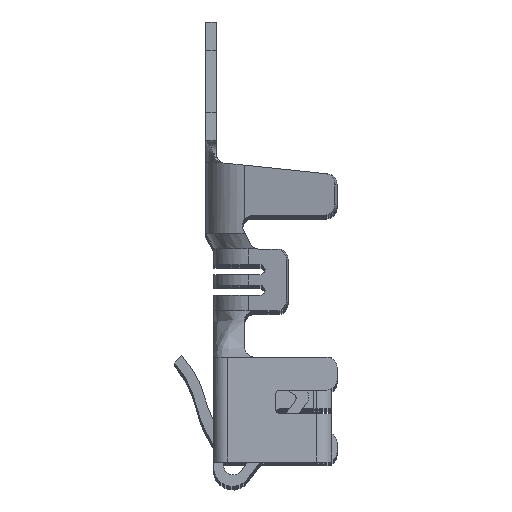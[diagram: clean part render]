
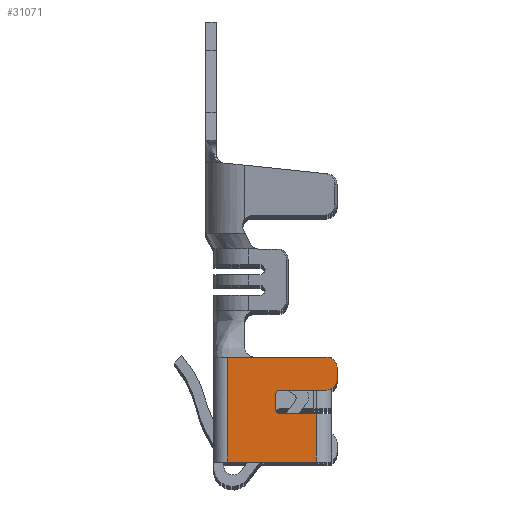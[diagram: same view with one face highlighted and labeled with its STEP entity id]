
A CAD part, top view. The second image highlights one B-rep face of the part: STEP entity #31071.
In plain terms, the highlighted planar face has unit normal (0, 0, 1).
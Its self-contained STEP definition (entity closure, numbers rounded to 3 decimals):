
#43 = DIRECTION ( 'NONE',  ( 0., 1., 0. ) ) ;
#290 = LINE ( 'NONE', #16877, #44269 ) ;
#400 = VECTOR ( 'NONE', #32678, 1000. ) ;
#432 = VECTOR ( 'NONE', #11776, 1000. ) ;
#1677 = VERTEX_POINT ( 'NONE', #6737 ) ;
#3126 = DIRECTION ( 'NONE',  ( 0., 1., 0. ) ) ;
#3804 = CARTESIAN_POINT ( 'NONE',  ( 2.823, -1.241, 0.925 ) ) ;
#3936 = PLANE ( 'NONE',  #4497 ) ;
#4470 = CARTESIAN_POINT ( 'NONE',  ( 0.898, -0.801, 0.925 ) ) ;
#4497 = AXIS2_PLACEMENT_3D ( 'NONE', #27699, #7297, #10643 ) ;
#4666 = ORIENTED_EDGE ( 'NONE', *, *, #8860, .T. ) ;
#4827 = ORIENTED_EDGE ( 'NONE', *, *, #28878, .T. ) ;
#5303 = CARTESIAN_POINT ( 'NONE',  ( 2.623, -2.841, 0.925 ) ) ;
#5426 = DIRECTION ( 'NONE',  ( 1., 0., 0. ) ) ;
#5991 = CARTESIAN_POINT ( 'NONE',  ( 1.423, -0.801, 0.925 ) ) ;
#6461 = VERTEX_POINT ( 'NONE', #13065 ) ;
#6551 = CARTESIAN_POINT ( 'NONE',  ( 0.898, -3.311, 0.925 ) ) ;
#6737 = CARTESIAN_POINT ( 'NONE',  ( 1.823, -1.801, 0.925 ) ) ;
#7297 = DIRECTION ( 'NONE',  ( 0., 0., 1. ) ) ;
#7630 = ORIENTED_EDGE ( 'NONE', *, *, #38701, .F. ) ;
#8324 = LINE ( 'NONE', #11013, #13740 ) ;
#8675 = EDGE_CURVE ( 'NONE', #22242, #13635, #43939, .T. ) ;
#8860 = EDGE_CURVE ( 'NONE', #33510, #29686, #32574, .T. ) ;
#9789 = EDGE_CURVE ( 'NONE', #32341, #26996, #37947, .T. ) ;
#10136 = DIRECTION ( 'NONE',  ( 0., 0., -1. ) ) ;
#10280 = CARTESIAN_POINT ( 'NONE',  ( 2.623, -1.901, 0.925 ) ) ;
#10643 = DIRECTION ( 'NONE',  ( 1., 0., 0. ) ) ;
#10872 = DIRECTION ( 'NONE',  ( 0., 0., -1. ) ) ;
#11013 = CARTESIAN_POINT ( 'NONE',  ( 1.823, -1.441, 0.925 ) ) ;
#11758 = CARTESIAN_POINT ( 'NONE',  ( 1.923, -1.801, 0.925 ) ) ;
#11776 = DIRECTION ( 'NONE',  ( 0., -1., 0. ) ) ;
#11817 = CARTESIAN_POINT ( 'NONE',  ( 0.898, -2.841, 0.925 ) ) ;
#11830 = VERTEX_POINT ( 'NONE', #28127 ) ;
#12495 = EDGE_CURVE ( 'NONE', #27042, #13635, #18436, .T. ) ;
#12664 = VECTOR ( 'NONE', #5426, 1000. ) ;
#13065 = CARTESIAN_POINT ( 'NONE',  ( 1.823, -1.541, 0.925 ) ) ;
#13082 = ORIENTED_EDGE ( 'NONE', *, *, #36331, .T. ) ;
#13279 = DIRECTION ( 'NONE',  ( 1., 0., 0. ) ) ;
#13422 = VERTEX_POINT ( 'NONE', #42312 ) ;
#13635 = VERTEX_POINT ( 'NONE', #39610 ) ;
#13740 = VECTOR ( 'NONE', #14600, 1000. ) ;
#14025 = CIRCLE ( 'NONE', #16170, 0.1 ) ;
#14600 = DIRECTION ( 'NONE',  ( -1., 0., 0. ) ) ;
#14701 = CARTESIAN_POINT ( 'NONE',  ( 1.823, -1.901, 0.925 ) ) ;
#14973 = EDGE_CURVE ( 'NONE', #11830, #40908, #43360, .T. ) ;
#16170 = AXIS2_PLACEMENT_3D ( 'NONE', #11758, #10872, #25447 ) ;
#16877 = CARTESIAN_POINT ( 'NONE',  ( 0.898, -0.801, 0.925 ) ) ;
#17695 = DIRECTION ( 'NONE',  ( 1., 0., 0. ) ) ;
#17824 = FACE_OUTER_BOUND ( 'NONE', #36144, .T. ) ;
#18006 = ORIENTED_EDGE ( 'NONE', *, *, #14973, .T. ) ;
#18256 = LINE ( 'NONE', #28571, #25262 ) ;
#18436 = LINE ( 'NONE', #22238, #12664 ) ;
#18573 = CARTESIAN_POINT ( 'NONE',  ( 3.023, -3.311, 0.925 ) ) ;
#18774 = LINE ( 'NONE', #11817, #400 ) ;
#19063 = ORIENTED_EDGE ( 'NONE', *, *, #42188, .T. ) ;
#19241 = DIRECTION ( 'NONE',  ( 0., 1., 0. ) ) ;
#19712 = VECTOR ( 'NONE', #43, 1000. ) ;
#21513 = ORIENTED_EDGE ( 'NONE', *, *, #29595, .T. ) ;
#22238 = CARTESIAN_POINT ( 'NONE',  ( 3.023, -1.901, 0.925 ) ) ;
#22242 = VERTEX_POINT ( 'NONE', #5303 ) ;
#23287 = ORIENTED_EDGE ( 'NONE', *, *, #9789, .F. ) ;
#23515 = CARTESIAN_POINT ( 'NONE',  ( 2.823, -1.001, 0.925 ) ) ;
#24481 = CARTESIAN_POINT ( 'NONE',  ( 1.923, -1.541, 0.925 ) ) ;
#24700 = AXIS2_PLACEMENT_3D ( 'NONE', #3804, #38748, #17695 ) ;
#25262 = VECTOR ( 'NONE', #37802, 1000. ) ;
#25310 = CARTESIAN_POINT ( 'NONE',  ( 1.923, -1.901, 0.925 ) ) ;
#25447 = DIRECTION ( 'NONE',  ( 1., 0., 0. ) ) ;
#26145 = CARTESIAN_POINT ( 'NONE',  ( 0.898, -2.841, 0.925 ) ) ;
#26996 = VERTEX_POINT ( 'NONE', #4470 ) ;
#27042 = VERTEX_POINT ( 'NONE', #25310 ) ;
#27699 = CARTESIAN_POINT ( 'NONE',  ( 0.898, -3.311, 0.925 ) ) ;
#28127 = CARTESIAN_POINT ( 'NONE',  ( 3.023, -1.001, 0.925 ) ) ;
#28571 = CARTESIAN_POINT ( 'NONE',  ( 0.898, -0.801, 0.925 ) ) ;
#28878 = EDGE_CURVE ( 'NONE', #29686, #11830, #43471, .T. ) ;
#29026 = AXIS2_PLACEMENT_3D ( 'NONE', #23515, #36745, #33168 ) ;
#29595 = EDGE_CURVE ( 'NONE', #6461, #13422, #36592, .T. ) ;
#29686 = VERTEX_POINT ( 'NONE', #37739 ) ;
#29870 = EDGE_CURVE ( 'NONE', #33510, #13422, #8324, .T. ) ;
#30159 = VECTOR ( 'NONE', #19241, 1000. ) ;
#30429 = VECTOR ( 'NONE', #3126, 1000. ) ;
#30575 = DIRECTION ( 'NONE',  ( -1., 0., 0. ) ) ;
#30777 = CARTESIAN_POINT ( 'NONE',  ( 2.823, -0.801, 0.925 ) ) ;
#31071 = ADVANCED_FACE ( 'NONE', ( #17824 ), #3936, .T. ) ;
#31228 = EDGE_CURVE ( 'NONE', #37825, #26996, #18256, .T. ) ;
#31893 = ORIENTED_EDGE ( 'NONE', *, *, #35909, .F. ) ;
#32341 = VERTEX_POINT ( 'NONE', #26145 ) ;
#32574 = CIRCLE ( 'NONE', #24700, 0.2 ) ;
#32678 = DIRECTION ( 'NONE',  ( -1., 0., 0. ) ) ;
#33168 = DIRECTION ( 'NONE',  ( 1., 0., 0. ) ) ;
#33510 = VERTEX_POINT ( 'NONE', #39505 ) ;
#35808 = ORIENTED_EDGE ( 'NONE', *, *, #8675, .T. ) ;
#35909 = EDGE_CURVE ( 'NONE', #22242, #32341, #18774, .T. ) ;
#36144 = EDGE_LOOP ( 'NONE', ( #31893, #35808, #40788, #13082, #7630, #21513, #43034, #4666, #4827, #18006, #19063, #38686, #23287 ) ) ;
#36331 = EDGE_CURVE ( 'NONE', #27042, #1677, #14025, .T. ) ;
#36592 = CIRCLE ( 'NONE', #42334, 0.1 ) ;
#36745 = DIRECTION ( 'NONE',  ( 0., 0., 1. ) ) ;
#37739 = CARTESIAN_POINT ( 'NONE',  ( 3.023, -1.241, 0.925 ) ) ;
#37802 = DIRECTION ( 'NONE',  ( -1., 0., 0. ) ) ;
#37825 = VERTEX_POINT ( 'NONE', #5991 ) ;
#37947 = LINE ( 'NONE', #6551, #19712 ) ;
#38686 = ORIENTED_EDGE ( 'NONE', *, *, #31228, .T. ) ;
#38701 = EDGE_CURVE ( 'NONE', #6461, #1677, #42506, .T. ) ;
#38748 = DIRECTION ( 'NONE',  ( 0., 0., 1. ) ) ;
#39505 = CARTESIAN_POINT ( 'NONE',  ( 2.823, -1.441, 0.925 ) ) ;
#39610 = CARTESIAN_POINT ( 'NONE',  ( 2.623, -1.901, 0.925 ) ) ;
#40788 = ORIENTED_EDGE ( 'NONE', *, *, #12495, .F. ) ;
#40908 = VERTEX_POINT ( 'NONE', #30777 ) ;
#42188 = EDGE_CURVE ( 'NONE', #40908, #37825, #290, .T. ) ;
#42312 = CARTESIAN_POINT ( 'NONE',  ( 1.923, -1.441, 0.925 ) ) ;
#42334 = AXIS2_PLACEMENT_3D ( 'NONE', #24481, #10136, #13279 ) ;
#42506 = LINE ( 'NONE', #14701, #432 ) ;
#43034 = ORIENTED_EDGE ( 'NONE', *, *, #29870, .F. ) ;
#43360 = CIRCLE ( 'NONE', #29026, 0.2 ) ;
#43471 = LINE ( 'NONE', #18573, #30159 ) ;
#43939 = LINE ( 'NONE', #10280, #30429 ) ;
#44269 = VECTOR ( 'NONE', #30575, 1000. ) ;
